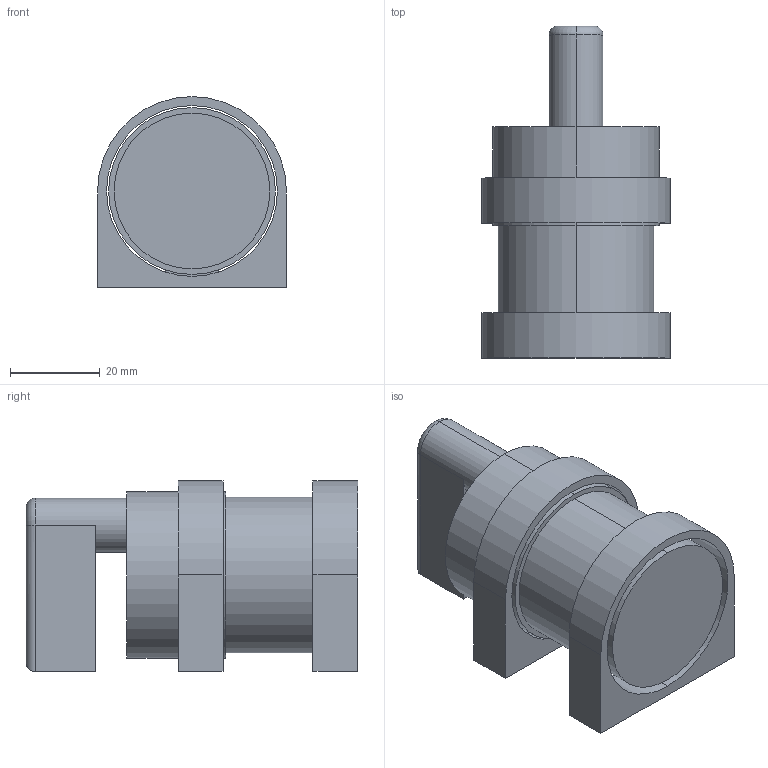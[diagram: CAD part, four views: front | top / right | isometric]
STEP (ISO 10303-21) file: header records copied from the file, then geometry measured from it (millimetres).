
FILE_DESCRIPTION (( 'STEP AP203' ), '1' );
FILE_NAME ('Motor - axle.STEP', '2021-06-04T13:48:50', ( '' ), ( '' ), 'SwSTEP 2.0', 'SolidWorks 2016', '' );
FILE_SCHEMA (( 'CONFIG_CONTROL_DESIGN' ));
Length unit declared in the file: centimetre
Products named in the file (1): Motor - axle
Bounding box: 42 x 73.8 x 42.45 mm (x, y, z)
Volume: 68327.6 mm3; surface area: 17500.8 mm2
Topology: 3 solids, 3 shells, 35 faces, 76 edges, 49 vertices
Faces by surface type: plane 18, cylinder 15, torus 2
Entity records: 1042 total; most frequent: DIRECTION 177, CARTESIAN_POINT 167, ORIENTED_EDGE 152, EDGE_CURVE 76, AXIS2_PLACEMENT_3D 67, VERTEX_POINT 49, VECTOR 43, LINE 43
